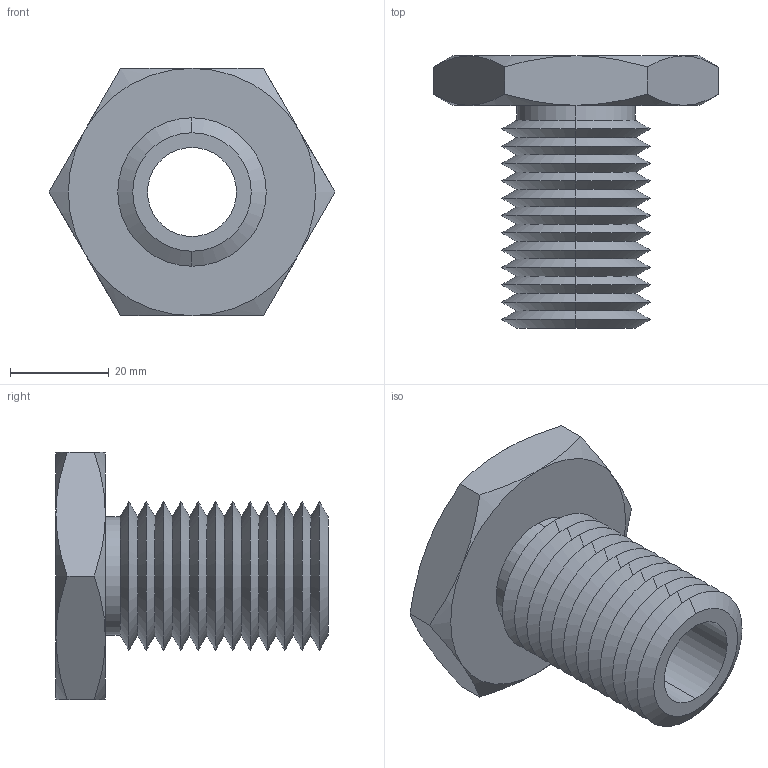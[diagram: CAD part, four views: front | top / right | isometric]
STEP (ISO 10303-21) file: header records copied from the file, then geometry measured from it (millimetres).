
FILE_DESCRIPTION (( 'STEP AP203' ), '1' );
FILE_NAME ('63302.W0030_M18x2,5.step', '2013-12-08T11:06:35', ( 'User' ), ( '' ), 'SwSTEP 2.0', 'SolidWorks 2009', '' );
FILE_SCHEMA (( 'CONFIG_CONTROL_DESIGN' ));
Length unit declared in the file: millimetre
Products named in the file (1): 63302.W0030_M18x2,5
Bounding box: 57.73 x 55 x 50 mm (x, y, z)
Volume: 32633.4 mm3; surface area: 15728.3 mm2
Topology: 1 solids, 1 shells, 75 faces, 154 edges, 82 vertices
Faces by surface type: cone 62, plane 9, cylinder 4
Entity records: 2139 total; most frequent: CARTESIAN_POINT 496, DIRECTION 352, ORIENTED_EDGE 308, EDGE_CURVE 154, AXIS2_PLACEMENT_3D 146, VERTEX_POINT 82, EDGE_LOOP 78, ADVANCED_FACE 75
